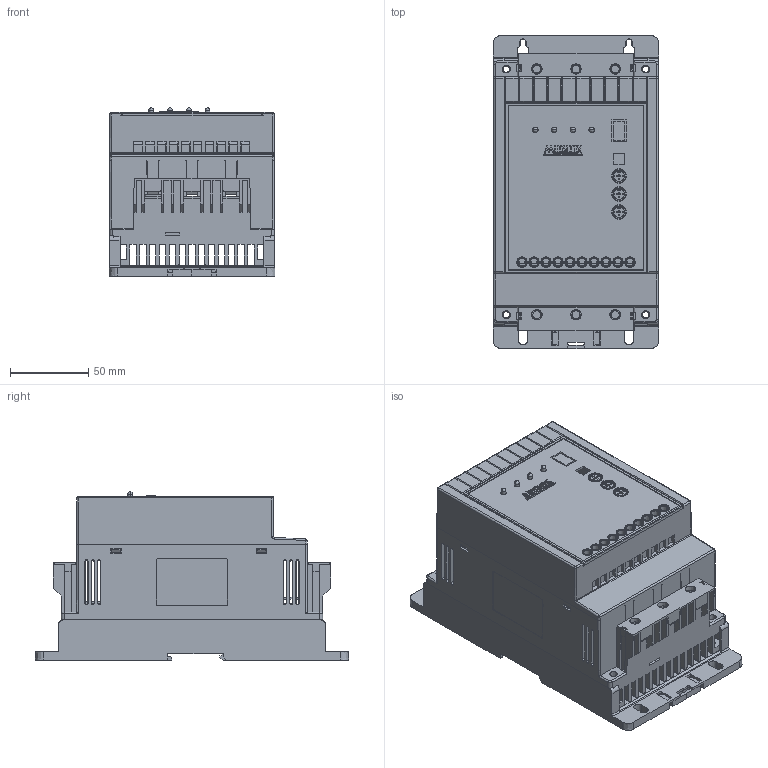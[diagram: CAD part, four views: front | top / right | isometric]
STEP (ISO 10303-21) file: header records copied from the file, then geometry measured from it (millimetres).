
FILE_DESCRIPTION(('FreeCAD Model'),'2;1');
FILE_NAME('Open CASCADE Shape Model','2022-04-18T13:49:19',( 'Engenharia Metaltex'),('Metaltex'), 'Open CASCADE STEP processor 7.5','FreeCAD','Unknown');
FILE_SCHEMA(('AUTOMOTIVE_DESIGN { 1 0 10303 214 1 1 1 1 }'));
Length unit declared in the file: millimetre
Products named in the file (3): PS10-B; Logo; Body
Assembly tree (2 placements, depth 2):
  PS10-B
    Logo
    Body
Bounding box: 105.85 x 200 x 107.5 mm (x, y, z)
Volume: 488778.6 mm3; surface area: 394172.6 mm2
Topology: 8 solids, 28 shells, 3515 faces, 10047 edges, 6631 vertices
Faces by surface type: plane 2633, bspline 363, cylinder 289, cone 216, sphere 14
Full cylindrical faces by diameter (mm): 3 x14, 3.5 x2, 4 x16
Entity records: 260220 total; most frequent: CARTESIAN_POINT 69249, DIRECTION 31876, LINE 22697, VECTOR 22697, ORIENTED_EDGE 20070, PCURVE 20070, DEFINITIONAL_REPRESENTATION 20070, EDGE_CURVE 10035
